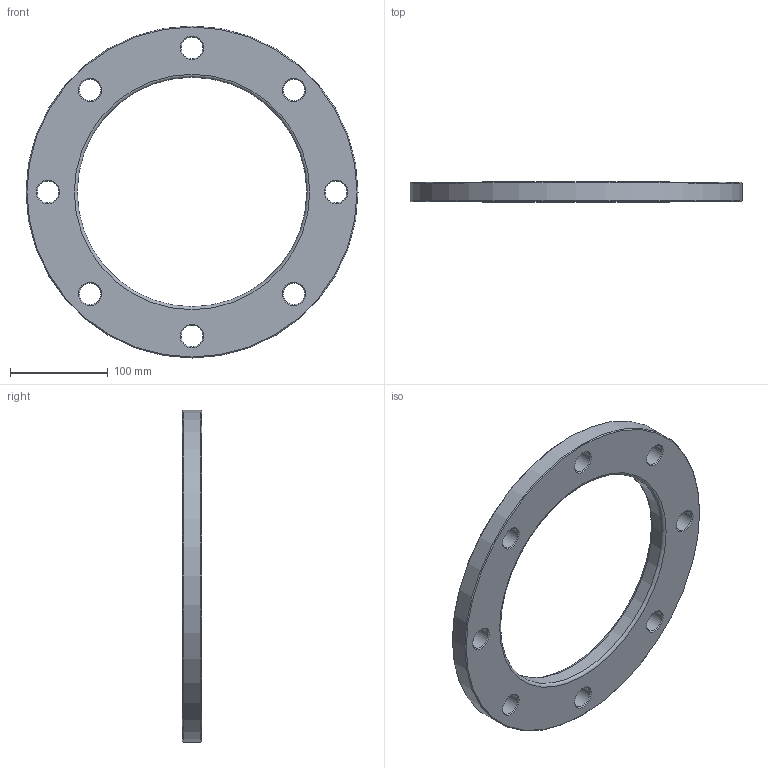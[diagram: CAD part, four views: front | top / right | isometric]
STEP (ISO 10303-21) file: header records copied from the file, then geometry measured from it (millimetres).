
FILE_DESCRIPTION(/* description */ ('Unknown'),/* implementation_level */ '2;1');
FILE_NAME(/* name */ 'FZ200B',/* time_stamp */ '2021-03-15T09:49:52+01:00',/* author */ ('Unknown'),/* organization */ ('Unknown'),/* preprocessor_version */ 'ST-DEVELOPER v16.7',/* originating_system */ 'Solid Edge',/* authorisation */ 'Unknown');
FILE_SCHEMA (('AUTOMOTIVE_DESIGN {1 0 10303 214 3 1 1}'));
Length unit declared in the file: millimetre
Products named in the file (1): FZ200B
Bounding box: 340 x 20 x 340 mm (x, y, z)
Volume: 883043.2 mm3; surface area: 132167.2 mm2
Topology: 1 solids, 1 shells, 32 faces, 94 edges, 64 vertices
Faces by surface type: cone 18, cylinder 10, plane 2, torus 2
Full cylindrical faces by diameter (mm): 22 x8, 235 x1, 340 x1
Entity records: 790 total; most frequent: DIRECTION 146, CARTESIAN_POINT 113, ORIENTED_EDGE 80, EDGE_LOOP 80, FACE_BOUND 80, AXIS2_PLACEMENT_3D 73, EDGE_CURVE 40, VERTEX_POINT 40
